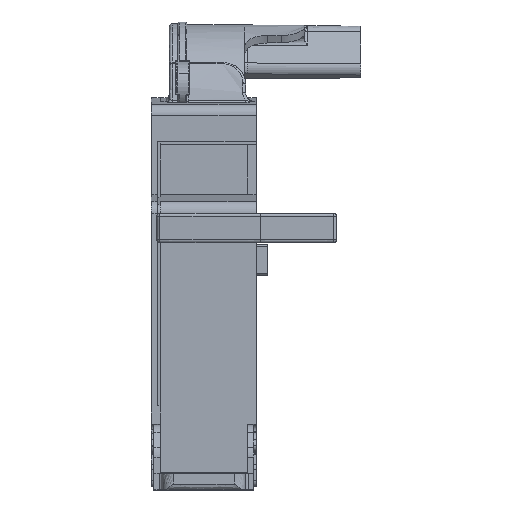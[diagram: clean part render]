
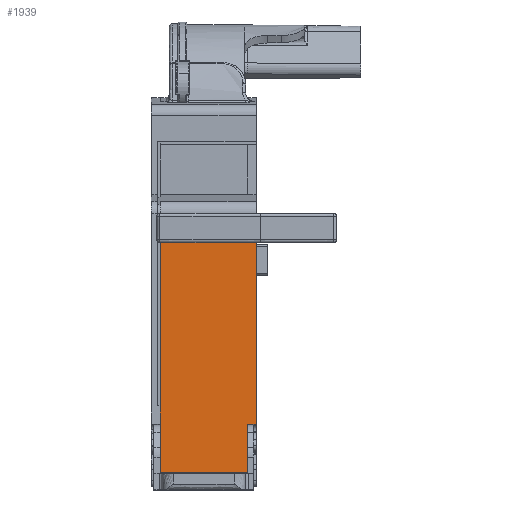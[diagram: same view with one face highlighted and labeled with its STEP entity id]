
A CAD part, front view. The second image highlights one B-rep face of the part: STEP entity #1939.
In plain terms, the highlighted free-form (B-spline) face has degree [1, 1] with [2, 2] control points.
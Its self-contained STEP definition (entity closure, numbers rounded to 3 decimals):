
#1939=ADVANCED_FACE('',(#2864),#2450,.F.);
#2450=B_SPLINE_SURFACE_WITH_KNOTS('',1,1,((#20689,#20690),(#20691,#20692)),
 .UNSPECIFIED.,.F.,.F.,.F.,(2,2),(2,2),(0.,1.),(0.,1.),.UNSPECIFIED.);
#2864=FACE_OUTER_BOUND('',#3536,.T.);
#3536=EDGE_LOOP('',(#6612,#6613,#6614,#6615,#6616,#6617,#6618,#6619));
#4309=B_SPLINE_CURVE_WITH_KNOTS('',1,(#18699,#18700),.UNSPECIFIED.,.F.,
 .F.,(2,2),(0.,1.),.UNSPECIFIED.);
#4529=B_SPLINE_CURVE_WITH_KNOTS('',1,(#20603,#20604),.UNSPECIFIED.,.F.,
 .F.,(2,2),(0.,1.),.UNSPECIFIED.);
#4542=B_SPLINE_CURVE_WITH_KNOTS('',1,(#20668,#20669),.UNSPECIFIED.,.F.,
 .F.,(2,2),(0.,1.),.UNSPECIFIED.);
#4544=B_SPLINE_CURVE_WITH_KNOTS('',1,(#20677,#20678),.UNSPECIFIED.,.F.,
 .F.,(2,2),(0.,1.),.UNSPECIFIED.);
#4545=B_SPLINE_CURVE_WITH_KNOTS('',1,(#20680,#20681),.UNSPECIFIED.,.F.,
 .F.,(2,2),(0.,1.),.UNSPECIFIED.);
#4546=B_SPLINE_CURVE_WITH_KNOTS('',1,(#20682,#20683),.UNSPECIFIED.,.F.,
 .F.,(2,2),(0.,1.),.UNSPECIFIED.);
#4547=B_SPLINE_CURVE_WITH_KNOTS('',1,(#20684,#20685),.UNSPECIFIED.,.F.,
 .F.,(2,2),(0.,1.),.UNSPECIFIED.);
#4548=B_SPLINE_CURVE_WITH_KNOTS('',1,(#20687,#20688),.UNSPECIFIED.,.F.,
 .F.,(2,2),(0.,1.),.UNSPECIFIED.);
#6612=ORIENTED_EDGE('',*,*,#10479,.F.);
#6613=ORIENTED_EDGE('',*,*,#10480,.T.);
#6614=ORIENTED_EDGE('',*,*,#10186,.T.);
#6615=ORIENTED_EDGE('',*,*,#10481,.T.);
#6616=ORIENTED_EDGE('',*,*,#10477,.F.);
#6617=ORIENTED_EDGE('',*,*,#10482,.F.);
#6618=ORIENTED_EDGE('',*,*,#10483,.F.);
#6619=ORIENTED_EDGE('',*,*,#10462,.F.);
#8785=VERTEX_POINT('',#18658);
#8793=VERTEX_POINT('',#18701);
#8980=VERTEX_POINT('',#20602);
#8981=VERTEX_POINT('',#20605);
#8985=VERTEX_POINT('',#20667);
#8986=VERTEX_POINT('',#20670);
#8987=VERTEX_POINT('',#20679);
#8988=VERTEX_POINT('',#20686);
#10186=EDGE_CURVE('',#8793,#8785,#4309,.T.);
#10462=EDGE_CURVE('',#8980,#8981,#4529,.T.);
#10477=EDGE_CURVE('',#8985,#8986,#4542,.T.);
#10479=EDGE_CURVE('',#8987,#8980,#4544,.T.);
#10480=EDGE_CURVE('',#8987,#8793,#4545,.T.);
#10481=EDGE_CURVE('',#8785,#8986,#4546,.T.);
#10482=EDGE_CURVE('',#8988,#8985,#4547,.T.);
#10483=EDGE_CURVE('',#8981,#8988,#4548,.T.);
#18658=CARTESIAN_POINT('',(1.5,-42.5,4.65));
#18699=CARTESIAN_POINT('',(1.5,-42.5,7.719));
#18700=CARTESIAN_POINT('',(1.5,-42.5,4.65));
#18701=CARTESIAN_POINT('',(1.5,-42.5,7.719));
#20602=CARTESIAN_POINT('',(17.8,-42.5,35.457));
#20603=CARTESIAN_POINT('',(17.8,-42.5,35.457));
#20604=CARTESIAN_POINT('',(17.8,-42.5,4.65));
#20605=CARTESIAN_POINT('',(17.8,-42.5,4.65));
#20667=CARTESIAN_POINT('',(16.3,-42.5,-3.5));
#20668=CARTESIAN_POINT('',(16.3,-42.5,-3.5));
#20669=CARTESIAN_POINT('',(1.5,-42.5,-3.5));
#20670=CARTESIAN_POINT('',(1.5,-42.5,-3.5));
#20677=CARTESIAN_POINT('',(1.5,-42.5,35.457));
#20678=CARTESIAN_POINT('',(17.8,-42.5,35.457));
#20679=CARTESIAN_POINT('',(1.5,-42.5,35.457));
#20680=CARTESIAN_POINT('',(1.5,-42.5,35.457));
#20681=CARTESIAN_POINT('',(1.5,-42.5,7.719));
#20682=CARTESIAN_POINT('',(1.5,-42.5,4.65));
#20683=CARTESIAN_POINT('',(1.5,-42.5,-3.5));
#20684=CARTESIAN_POINT('',(16.3,-42.5,4.65));
#20685=CARTESIAN_POINT('',(16.3,-42.5,-3.5));
#20686=CARTESIAN_POINT('',(16.3,-42.5,4.65));
#20687=CARTESIAN_POINT('',(17.8,-42.5,4.65));
#20688=CARTESIAN_POINT('',(16.3,-42.5,4.65));
#20689=CARTESIAN_POINT('',(1.5,-42.5,-3.5));
#20690=CARTESIAN_POINT('',(17.8,-42.5,-3.5));
#20691=CARTESIAN_POINT('',(1.5,-42.5,35.457));
#20692=CARTESIAN_POINT('',(17.8,-42.5,35.457));
